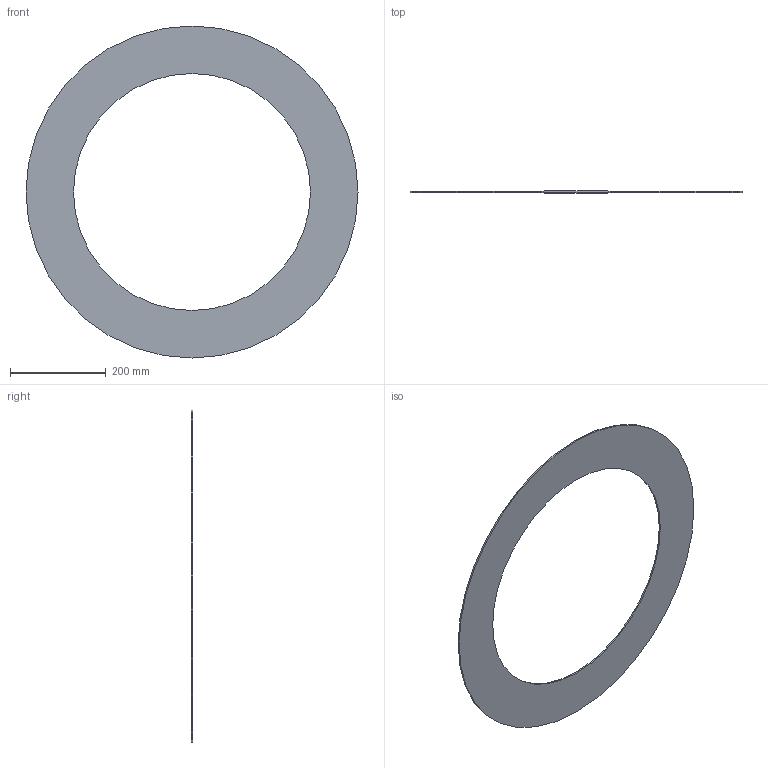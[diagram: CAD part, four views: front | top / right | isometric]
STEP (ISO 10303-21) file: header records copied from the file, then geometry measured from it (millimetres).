
FILE_DESCRIPTION(/* description */ ('Unknown'),/* implementation_level */ '2;1');
FILE_NAME(/* name */ 'GUA.560B',/* time_stamp */ '2021-04-01T14:27:01+02:00',/* author */ ('Unknown'),/* organization */ ('Unknown'),/* preprocessor_version */ 'ST-DEVELOPER v16.7',/* originating_system */ 'Solid Edge',/* authorisation */ 'Unknown');
FILE_SCHEMA (('AUTOMOTIVE_DESIGN {1 0 10303 214 3 1 1}'));
Length unit declared in the file: millimetre
Products named in the file (1): GUA.560B
Bounding box: 695 x 3 x 695 mm (x, y, z)
Volume: 558439.3 mm3; surface area: 383517.8 mm2
Topology: 1 solids, 1 shells, 4 faces, 6 edges, 4 vertices
Faces by surface type: cylinder 2, plane 2
Full cylindrical faces by diameter (mm): 496 x1, 695 x1
Entity records: 118 total; most frequent: DIRECTION 18, CARTESIAN_POINT 13, AXIS2_PLACEMENT_3D 9, ORIENTED_EDGE 8, EDGE_LOOP 8, FACE_BOUND 8, EDGE_CURVE 4, VERTEX_POINT 4
